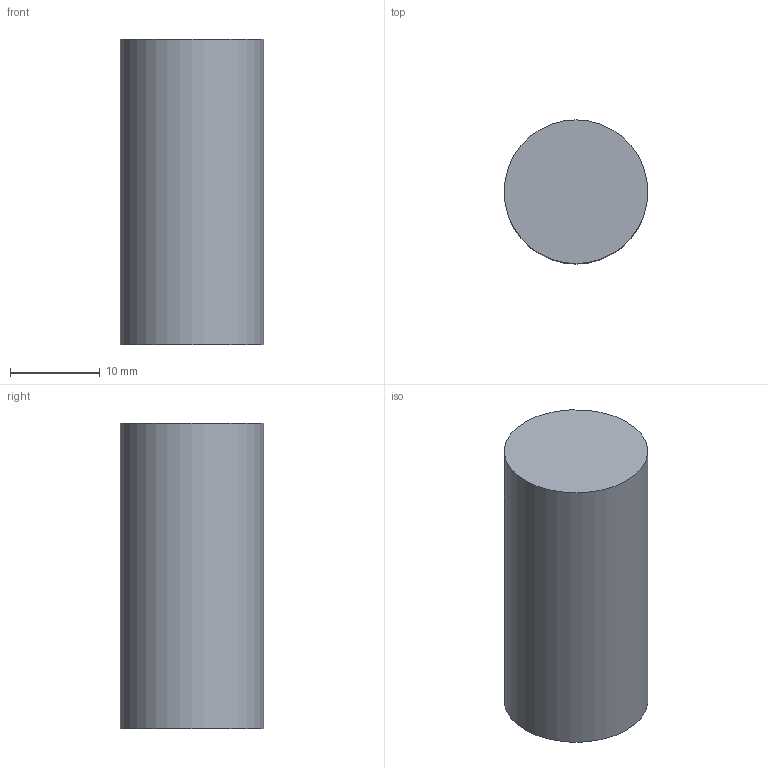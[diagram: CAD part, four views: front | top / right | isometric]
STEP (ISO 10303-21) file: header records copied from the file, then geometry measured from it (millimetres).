
FILE_DESCRIPTION(/* description */ ('','CAx-IF Rec.Pracs.---Representation and Presentation of Product Manufacturing Information (PMI)---4.0---2014-10-13'),/* implementation_level */ '2;1');
FILE_NAME(/* name */ '',/* time_stamp */ '2025-01-05T14:37:30+08:00',/* author */ (''),/* organization */ (''),/* preprocessor_version */ 'ST-DEVELOPER v20',/* originating_system */ 'Autodesk Translation Framework v13.20.0.188',/* authorisation */ '');
FILE_SCHEMA (('AP242_MANAGED_MODEL_BASED_3D_ENGINEERING_MIM_LF { 1 0 10303 442 1 1 4 }'));
Length unit declared in the file: millimetre
Products named in the file (1): (未保存)
Bounding box: 16 x 16 x 34 mm (x, y, z)
Volume: 6836.1 mm3; surface area: 2111.2 mm2
Topology: 1 solids, 1 shells, 3 faces, 3 edges, 2 vertices
Faces by surface type: plane 2, cylinder 1
Full cylindrical faces by diameter (mm): 16 x1
Entity records: 92 total; most frequent: DIRECTION 13, CARTESIAN_POINT 9, ORIENTED_EDGE 6, AXIS2_PLACEMENT_3D 6, FACE_OUTER_BOUND 3, EDGE_LOOP 3, EDGE_CURVE 3, ADVANCED_FACE 3
